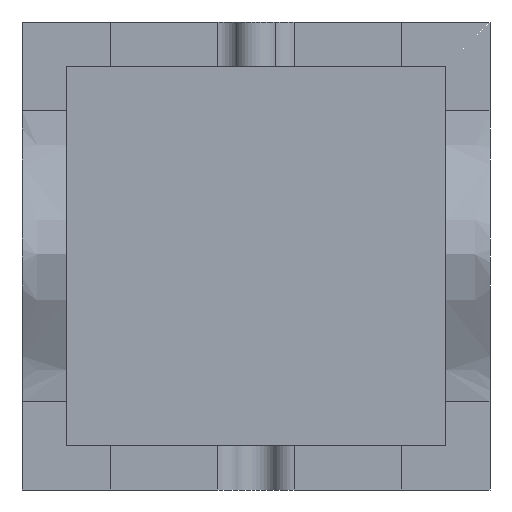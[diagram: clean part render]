
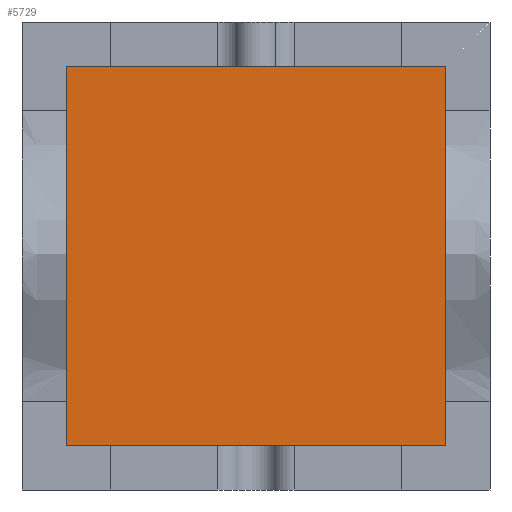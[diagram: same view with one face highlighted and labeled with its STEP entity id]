
A CAD part, front view. The second image highlights one B-rep face of the part: STEP entity #5729.
In plain terms, the highlighted planar face has unit normal (0, -1, 0).
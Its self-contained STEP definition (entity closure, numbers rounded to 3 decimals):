
#5603=CARTESIAN_POINT('Vertex',(-20.,-30.,-20.)) ;
#5608=CARTESIAN_POINT('Line Origine',(-20.,-30.,66.)) ;
#5612=CARTESIAN_POINT('Vertex',(-20.,-30.,152.)) ;
#5639=CARTESIAN_POINT('Line Origine',(66.,-30.,152.)) ;
#5643=CARTESIAN_POINT('Vertex',(152.,-30.,152.)) ;
#5670=CARTESIAN_POINT('Line Origine',(152.,-30.,66.)) ;
#5674=CARTESIAN_POINT('Vertex',(152.,-30.,-20.)) ;
#5701=CARTESIAN_POINT('Line Origine',(66.,-30.,-20.)) ;
#5718=CARTESIAN_POINT('Axis2P3D Location',(0.,-30.,0.)) ;
#5609=DIRECTION('Vector Direction',(0.,0.,-1.)) ;
#5640=DIRECTION('Vector Direction',(1.,0.,0.)) ;
#5671=DIRECTION('Vector Direction',(0.,0.,1.)) ;
#5702=DIRECTION('Vector Direction',(-1.,0.,0.)) ;
#5719=DIRECTION('Axis2P3D Direction',(0.,1.,0.)) ;
#5720=DIRECTION('Axis2P3D XDirection',(-1.,0.,0.)) ;
#5721=AXIS2_PLACEMENT_3D('Plane Axis2P3D',#5718,#5719,#5720) ;
#5724=ORIENTED_EDGE('',*,*,#5705,.F.) ;
#5725=ORIENTED_EDGE('',*,*,#5676,.F.) ;
#5726=ORIENTED_EDGE('',*,*,#5645,.F.) ;
#5727=ORIENTED_EDGE('',*,*,#5614,.F.) ;
#5610=VECTOR('Line Direction',#5609,1.) ;
#5641=VECTOR('Line Direction',#5640,1.) ;
#5672=VECTOR('Line Direction',#5671,1.) ;
#5703=VECTOR('Line Direction',#5702,1.) ;
#5729=ADVANCED_FACE('Cavity-molde',(#5728),#5722,.F.) ;
#5614=EDGE_CURVE('',#5604,#5613,#5611,.F.) ;
#5645=EDGE_CURVE('',#5613,#5644,#5642,.T.) ;
#5676=EDGE_CURVE('',#5644,#5675,#5673,.F.) ;
#5705=EDGE_CURVE('',#5675,#5604,#5704,.T.) ;
#5723=EDGE_LOOP('',(#5724,#5725,#5726,#5727)) ;
#5728=FACE_OUTER_BOUND('',#5723,.T.) ;
#5611=LINE('Line',#5608,#5610) ;
#5642=LINE('Line',#5639,#5641) ;
#5673=LINE('Line',#5670,#5672) ;
#5704=LINE('Line',#5701,#5703) ;
#5722=PLANE('',#5721) ;
#5604=VERTEX_POINT('',#5603) ;
#5613=VERTEX_POINT('',#5612) ;
#5644=VERTEX_POINT('',#5643) ;
#5675=VERTEX_POINT('',#5674) ;
